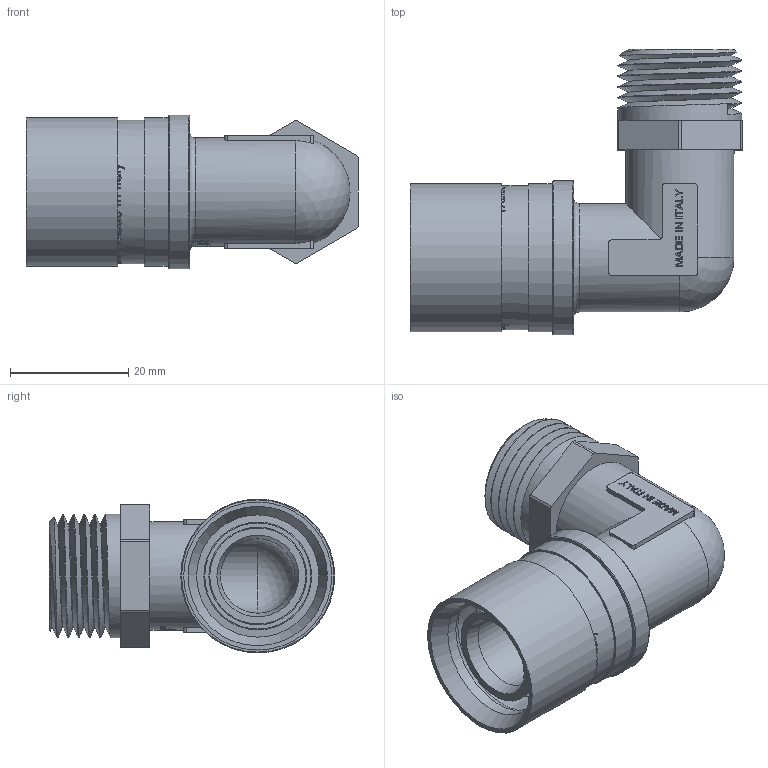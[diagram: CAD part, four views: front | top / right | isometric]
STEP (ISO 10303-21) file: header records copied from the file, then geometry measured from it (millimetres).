
FILE_DESCRIPTION(/* description */ (''),/* implementation_level */ '2;1');
FILE_NAME(/* name */ 'F:\Артём\00000\Работа удаленка\Аксеальные фитинги\VTm.453.BG.002004.stp',/* time_stamp */ '2021-01-27T11:31:30+03:00',/* author */ ('almis'),/* organization */ (''),/* preprocessor_version */ 'ST-DEVELOPER v18',/* originating_system */ 'Autodesk Inventor 2020',/* authorisation */ '');
FILE_SCHEMA (('AUTOMOTIVE_DESIGN { 1 0 10303 214 3 1 1 }'));
Length unit declared in the file: millimetre
Products named in the file (1): VTm.403.BG.001616
Bounding box: 56.06 x 48.2 x 26 mm (x, y, z)
Volume: 13879.3 mm3; surface area: 13098 mm2
Topology: 1 solids, 14 shells, 1110 faces, 3098 edges, 2051 vertices
Faces by surface type: bspline 474, plane 428, cylinder 172, torus 23, cone 11, sphere 2
Full cylindrical faces by diameter (mm): 12.6 x2, 15.15 x1, 15.7 x5, 16.5 x4, 17.3 x5, 18.2 x1, 18.3 x2, 20.65 x2, 20.9 x4, 24.3 x1, 25 x2, 26 x1
Entity records: 46128 total; most frequent: CARTESIAN_POINT 20447, ORIENTED_EDGE 6196, DIRECTION 3893, EDGE_CURVE 3098, VERTEX_POINT 2051, LINE 1475, VECTOR 1475, AXIS2_PLACEMENT_3D 1209
